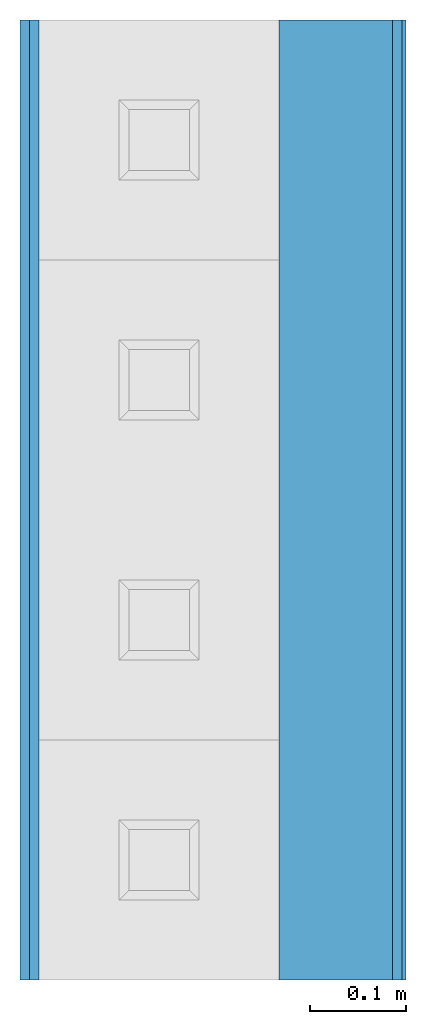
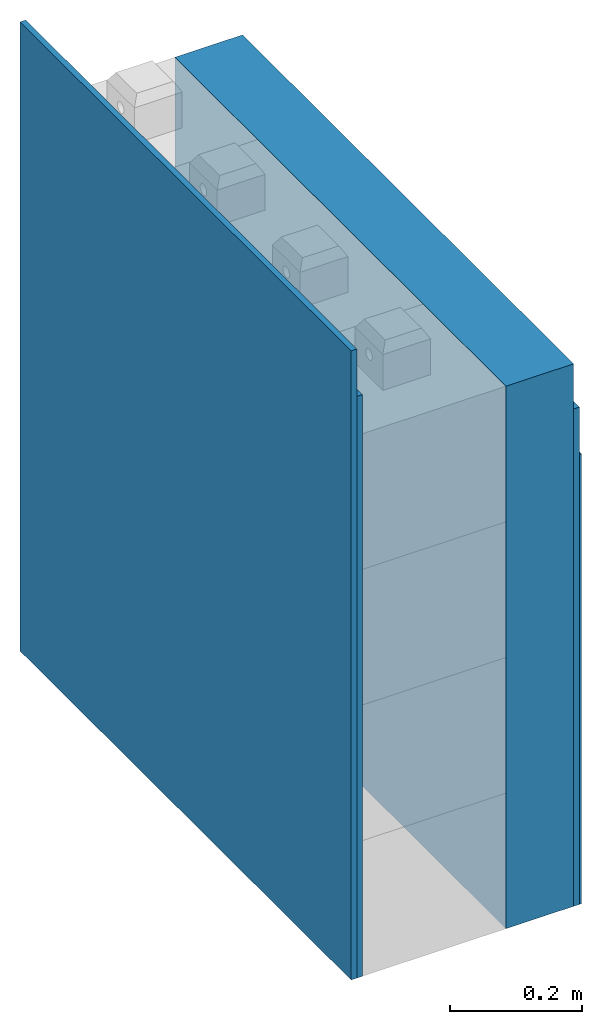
# One storey, incomplete: 5 walls.
"""IFC4 building model written with IfcOpenShell, lengths in centimetres."""

from ifc_helpers import new_model, entity, si_unit, converted_unit, direction, frame, origin, place, context, subcontext, project, spatial, indexed_curve, outline, extrude, material, constituent, constituent_set, type_object, element, save


model = new_model("IFC4")

# Units and contexts
model_context = context("Model", 3, precision=0.001, world=origin(), true_north=direction((0.0, 1.0)))
body_context = subcontext(model_context, "Body", "Model", "MODEL_VIEW")
ifc_project = project(units=[si_unit("LENGTHUNIT", "METRE", prefix="CENTI"), si_unit("AREAUNIT", "SQUARE_METRE"), si_unit("VOLUMEUNIT", "CUBIC_METRE"), converted_unit("PLANEANGLEUNIT", "DEGREE", entity("IfcPlaneAngleMeasure", 0.017453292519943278), si_unit("PLANEANGLEUNIT", "RADIAN"), dimensions=[0, 0, 0, 0, 0, 0, 0])], contexts=[model_context])

# Site, building, storey
site_placement = place(None, origin())
site = spatial("IfcSite", under=ifc_project, at=site_placement, Name="Default", CompositionType="ELEMENT")
building_placement = place(site_placement, origin())
building = spatial("IfcBuilding", under=site, at=building_placement, CompositionType="ELEMENT")
storey_placement = place(building_placement, frame((0.0, 0.0, -12.0)))
storey = spatial("IfcBuildingStorey", under=building, at=storey_placement, Name="L00__ABOVE Slab", CompositionType="ELEMENT", Elevation=-12.000000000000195)

# Walls
ifc_material_1 = material(Name="_FND LAYERS__Insulation__Foam Glass__Glapor", Category="Unassigned")
ifc_constituent_1 = constituent(ifc_material_1, Name="_FND LAYERS__Insulation__Foam Glass__Glapor", Category="Unassigned", fraction=1.0)
ifc_constituent_set_1 = constituent_set(constituents=[ifc_constituent_1], Name="Basic Wall:wll__WP & INSULATION_1cm")
wall_type_1 = type_object("IfcWallType", Name="Walls : Basic Wall : wll__WP & INSULATION_1cm", PredefinedType="STANDARD", material=ifc_constituent_set_1)
wall_1_placement = place(storey_placement, frame((5201.7731038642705, 1584.8092102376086, 10.0), z_axis=(0.0, 0.0, 1.0), x_axis=(0.0, 1.0, 0.0)))
element("IfcWall", 1, at=wall_1_placement, inside=storey, type_object=wall_type_1, material=ifc_constituent_set_1, Name="Walls : Basic Wall : wll__WP & INSULATION_1cm", PredefinedType="NOTDEFINED", context=body_context, shape_type="SweptSolid", body=[
    extrude(outline(indexed_curve([(100.00000000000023, 0.499999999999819), (4.668391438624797e-15, 0.4999999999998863), (-4.668391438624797e-15, -0.4999999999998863), (100.00000000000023, -0.4999999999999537), (100.00000000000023, 0.499999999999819)], self_intersect=False)), origin(), (0.0, 0.0, 1.0), 91.66666666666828),
])
wall_2_placement = place(storey_placement, frame((5163.973103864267, 1584.8092102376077, 10.0), z_axis=(0.0, 0.0, 1.0), x_axis=(0.0, 1.0, 0.0)))
element("IfcWall", 2, at=wall_2_placement, inside=storey, type_object=wall_type_1, material=ifc_constituent_set_1, Name="Walls : Basic Wall : wll__WP & INSULATION_1cm", PredefinedType="NOTDEFINED", context=body_context, shape_type="SweptSolid", body=[
    extrude(outline(indexed_curve([(100.00000000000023, 0.499999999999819), (4.668391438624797e-15, 0.4999999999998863), (-4.668391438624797e-15, -0.4999999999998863), (100.00000000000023, -0.4999999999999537), (100.00000000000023, 0.499999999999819)], self_intersect=False)), origin(), (0.0, 0.0, 1.0), 107.20293484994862),
])
wall_3_placement = place(storey_placement, frame((5162.973103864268, 1584.8092102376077, 10.0), z_axis=(0.0, 0.0, 1.0), x_axis=(0.0, 1.0, 0.0)))
element("IfcWall", 3, at=wall_3_placement, inside=storey, type_object=wall_type_1, material=ifc_constituent_set_1, Name="Walls : Basic Wall : wll__WP & INSULATION_1cm", PredefinedType="NOTDEFINED", context=body_context, shape_type="SweptSolid", body=[
    extrude(outline(indexed_curve([(100.00000000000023, 0.499999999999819), (4.668391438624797e-15, 0.4999999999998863), (-4.668391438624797e-15, -0.4999999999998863), (100.00000000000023, -0.4999999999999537), (100.00000000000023, 0.499999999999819)], self_intersect=False)), origin(), (0.0, 0.0, 1.0), 115.9712402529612),
])
ifc_material_2 = material(Name="_WLL & CLG FINISHES__Spray-cork", Category="플라스틱")
ifc_constituent_2 = constituent(ifc_material_2, Name="_WLL & CLG FINISHES__Spray-cork", Category="플라스틱", fraction=1.0)
ifc_constituent_set_2 = constituent_set(constituents=[ifc_constituent_2], Name="Basic Wall:wll__INT FINISH__Spritzkork 0.4cm__TriqBriq, TN.1")
wall_type_2 = type_object("IfcWallType", Name="Walls : Basic Wall : wll__INT FINISH__Spritzkork 0.4cm__TriqBriq, TN.1", PredefinedType="STANDARD", material=ifc_constituent_set_2)
wall_4_placement = place(storey_placement, frame((5202.47310386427, 1584.8092102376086, 10.0), z_axis=(0.0, 0.0, 1.0), x_axis=(0.0, 1.0, 0.0)))
element("IfcWall", 4, at=wall_4_placement, inside=storey, type_object=wall_type_2, material=ifc_constituent_set_2, Name="Walls : Basic Wall : wll__INT FINISH__Spritzkork 0.4cm__TriqBriq, TN.1", PredefinedType="NOTDEFINED", context=body_context, shape_type="SweptSolid", body=[
    extrude(outline(indexed_curve([(100.00000000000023, 0.19999999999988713), (1.8673565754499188e-15, 0.19999999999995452), (-1.8673565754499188e-15, -0.19999999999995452), (100.00000000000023, -0.2000000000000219), (100.00000000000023, 0.19999999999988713)], self_intersect=False)), origin(), (0.0, 0.0, 1.0), 82.90025646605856),
])
ifc_material_3 = material(Name="_FND LAYERS__Protection & Drainage Membrane__Dimple Sheet", Category="Unassigned")
ifc_constituent_3 = constituent(ifc_material_3, Name="_FND LAYERS__Protection & Drainage Membrane__Dimple Sheet", Category="Unassigned", fraction=0.06779661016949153)
ifc_material_4 = material(Name="_FCD LAYERS__Adhesive__Cell Filling__Glapor", Category="Unassigned")
ifc_constituent_4 = constituent(ifc_material_4, Name="_FCD LAYERS__Adhesive__Cell Filling__Glapor", Category="Unassigned", fraction=0.03389830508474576)
ifc_constituent_5 = constituent(ifc_material_1, Name="_FND LAYERS__Insulation__Foam Glass__Glapor", Category="Unassigned", fraction=0.847457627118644)
ifc_material_5 = material(Name="_FCD LAYERS__Adhesive__For Foam Glass__Glapor", Category="Unassigned")
ifc_constituent_6 = constituent(ifc_material_5, Name="_FCD LAYERS__Adhesive__For Foam Glass__Glapor", Category="Unassigned", fraction=0.05084745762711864)
ifc_constituent_set_3 = constituent_set(constituents=[ifc_constituent_3, ifc_constituent_4, ifc_constituent_5, ifc_constituent_6], Name="Basic Wall:wll__WP & INSULATION__Foam Glass 11.8cm__On Heated Bsmt Wall, TriqBriq, IZ.1")
wall_type_3 = type_object("IfcWallType", Name="Walls : Basic Wall : wll__WP & INSULATION__Foam Glass 11.8cm__On Heated Bsmt Wall, TriqBriq, IZ.1", PredefinedType="STANDARD", material=ifc_constituent_set_3)
wall_5_placement = place(storey_placement, frame((5195.37310386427, 1684.8092102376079, 10.0), z_axis=(0.0, 0.0, 1.0), x_axis=(0.0, -1.0, 0.0)))
element("IfcWall", 5, at=wall_5_placement, inside=storey, type_object=wall_type_3, material=ifc_constituent_set_3, Name="Walls : Basic Wall : wll__WP & INSULATION__Foam Glass 11.8cm__On Heated Bsmt Wall, TriqBriq, IZ.1", PredefinedType="NOTDEFINED", context=body_context, shape_type="SweptSolid", body=[
    extrude(outline(indexed_curve([(-0.39999999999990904, -50.000000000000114), (0.40000000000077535, -50.000000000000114), (0.40000000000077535, 50.000000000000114), (-0.3999999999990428, 50.000000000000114), (-0.39999999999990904, -50.000000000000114)], self_intersect=False)), frame((50.0, -5.500000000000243, 0.0), z_axis=(0.0, 0.0, 1.0), x_axis=(0.0, 1.0, 0.0)), (0.0, 0.0, 1.0), 100.00000000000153),
    extrude(outline(indexed_curve([(-0.29999999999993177, -50.000000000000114), (0.3000000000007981, -50.000000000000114), (0.3000000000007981, 50.000000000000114), (-0.29999999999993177, 50.000000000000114), (-0.29999999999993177, -50.000000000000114)], self_intersect=False)), frame((50.0, 5.600000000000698, 0.0), z_axis=(0.0, 0.0, 1.0), x_axis=(0.0, -1.0, 0.0)), (0.0, 0.0, 1.0), 100.00000000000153),
    extrude(outline(indexed_curve([(-50.000000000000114, -4.999999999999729), (50.000000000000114, -4.999999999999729), (50.000000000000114, 4.999999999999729), (-50.000000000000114, 4.999999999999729), (-50.000000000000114, -4.999999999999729)], self_intersect=False)), frame((50.0, 0.3000000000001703, 0.0)), (0.0, 0.0, 1.0), 100.00000000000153),
    extrude(outline(indexed_curve([(-50.000000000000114, -0.19999999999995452), (50.000000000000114, -0.19999999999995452), (50.000000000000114, 0.19999999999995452), (-50.000000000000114, 0.19999999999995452), (-50.000000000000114, -0.19999999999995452)], self_intersect=False)), frame((50.0, -4.899999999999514, 0.0)), (0.0, 0.0, 1.0), 100.00000000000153),
])

save(model, "model.ifc")
